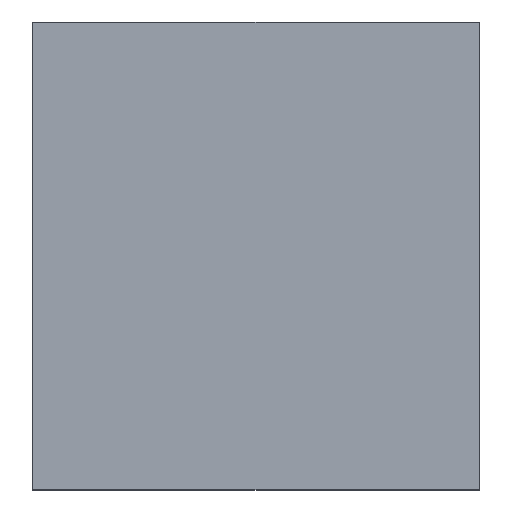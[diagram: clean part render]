
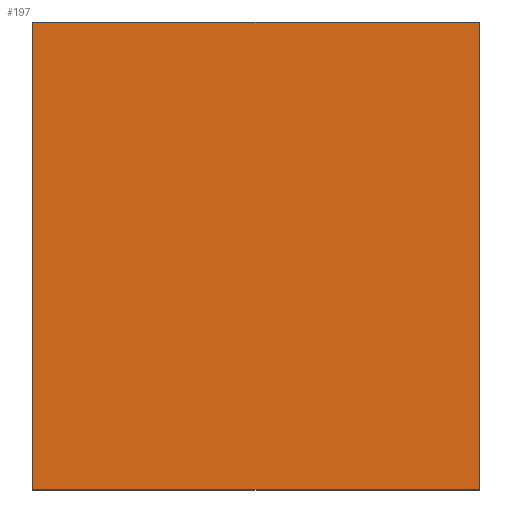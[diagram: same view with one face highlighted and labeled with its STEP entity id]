
A CAD part, top view. The second image highlights one B-rep face of the part: STEP entity #197.
In plain terms, the highlighted planar face has unit normal (0, 0, 1).
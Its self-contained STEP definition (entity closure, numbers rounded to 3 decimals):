
#6 = DIRECTION ( 'NONE',  ( 0., -1., 0. ) ) ;
#27 = LINE ( 'NONE', #384, #130 ) ;
#31 = VECTOR ( 'NONE', #6, 1000. ) ;
#40 = VERTEX_POINT ( 'NONE', #410 ) ;
#42 = EDGE_CURVE ( 'NONE', #40, #48, #406, .T. ) ;
#48 = VERTEX_POINT ( 'NONE', #666 ) ;
#67 = LINE ( 'NONE', #132, #31 ) ;
#101 = DIRECTION ( 'NONE',  ( -1., 0., 0. ) ) ;
#112 = VECTOR ( 'NONE', #313, 1000. ) ;
#113 = VECTOR ( 'NONE', #101, 1000. ) ;
#130 = VECTOR ( 'NONE', #276, 1000. ) ;
#131 = ORIENTED_EDGE ( 'NONE', *, *, #42, .F. ) ;
#132 = CARTESIAN_POINT ( 'NONE',  ( 44., -23., 23. ) ) ;
#150 = AXIS2_PLACEMENT_3D ( 'NONE', #426, #367, #558 ) ;
#152 = EDGE_CURVE ( 'NONE', #412, #40, #67, .T. ) ;
#197 = ADVANCED_FACE ( 'NONE', ( #438 ), #500, .F. ) ;
#276 = DIRECTION ( 'NONE',  ( -1., 0., 0. ) ) ;
#282 = ORIENTED_EDGE ( 'NONE', *, *, #152, .F. ) ;
#298 = EDGE_CURVE ( 'NONE', #412, #540, #27, .T. ) ;
#313 = DIRECTION ( 'NONE',  ( 0., -1., 0. ) ) ;
#331 = ORIENTED_EDGE ( 'NONE', *, *, #687, .T. ) ;
#367 = DIRECTION ( 'NONE',  ( 0., 0., -1. ) ) ;
#372 = CARTESIAN_POINT ( 'NONE',  ( 0., -23., 23. ) ) ;
#384 = CARTESIAN_POINT ( 'NONE',  ( 44., 23., 23. ) ) ;
#406 = LINE ( 'NONE', #785, #113 ) ;
#410 = CARTESIAN_POINT ( 'NONE',  ( 44., -23., 23. ) ) ;
#412 = VERTEX_POINT ( 'NONE', #484 ) ;
#424 = EDGE_LOOP ( 'NONE', ( #331, #131, #282, #535 ) ) ;
#426 = CARTESIAN_POINT ( 'NONE',  ( 44., -23., 23. ) ) ;
#438 = FACE_OUTER_BOUND ( 'NONE', #424, .T. ) ;
#484 = CARTESIAN_POINT ( 'NONE',  ( 44., 23., 23. ) ) ;
#500 = PLANE ( 'NONE',  #150 ) ;
#505 = LINE ( 'NONE', #372, #112 ) ;
#535 = ORIENTED_EDGE ( 'NONE', *, *, #298, .T. ) ;
#540 = VERTEX_POINT ( 'NONE', #541 ) ;
#541 = CARTESIAN_POINT ( 'NONE',  ( 0., 23., 23. ) ) ;
#558 = DIRECTION ( 'NONE',  ( -1., 0., 0. ) ) ;
#666 = CARTESIAN_POINT ( 'NONE',  ( 0., -23., 23. ) ) ;
#687 = EDGE_CURVE ( 'NONE', #540, #48, #505, .T. ) ;
#785 = CARTESIAN_POINT ( 'NONE',  ( 44., -23., 23. ) ) ;
